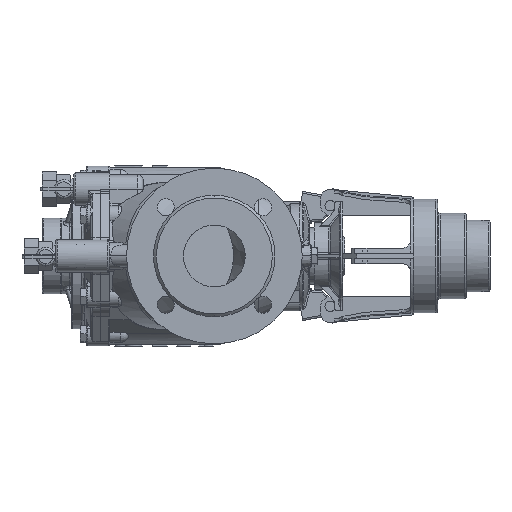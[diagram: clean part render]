
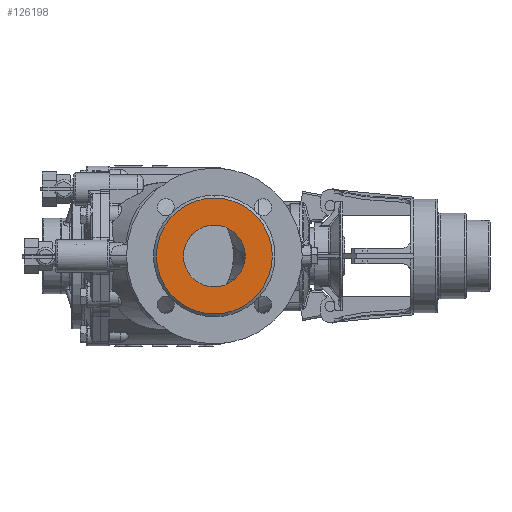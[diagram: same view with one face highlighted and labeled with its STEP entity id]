
A CAD part, left-side view. The second image highlights one B-rep face of the part: STEP entity #126198.
In plain terms, the highlighted planar face has unit normal (-1, 0, 0).
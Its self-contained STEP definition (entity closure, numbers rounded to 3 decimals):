
#16205 = EDGE_CURVE ( 'NONE', #16208, #16214, #74384, .T. ) ;
#16208 = VERTEX_POINT ( 'NONE', #74467 ) ;
#16214 = VERTEX_POINT ( 'NONE', #74466 ) ;
#16279 = EDGE_CURVE ( 'NONE', #16280, #16284, #74231, .T. ) ;
#16280 = VERTEX_POINT ( 'NONE', #75044 ) ;
#16284 = VERTEX_POINT ( 'NONE', #75245 ) ;
#74225 = DIRECTION ( 'NONE',  ( 0., 0., -1. ) ) ;
#74227 = DIRECTION ( 'NONE',  ( 1., 0., 0. ) ) ;
#74228 = CARTESIAN_POINT ( 'NONE',  ( -165., -120., 0. ) ) ;
#74230 = AXIS2_PLACEMENT_3D ( 'NONE', #74228, #74227, #74225 ) ;
#74231 = CIRCLE ( 'NONE', #74230, 32.5 ) ;
#74382 = CARTESIAN_POINT ( 'NONE',  ( -165., -120., 0. ) ) ;
#74384 = CIRCLE ( 'NONE', #74470, 61. ) ;
#74466 = CARTESIAN_POINT ( 'NONE',  ( -165., -120., 61. ) ) ;
#74467 = CARTESIAN_POINT ( 'NONE',  ( -165., -120., -61. ) ) ;
#74468 = DIRECTION ( 'NONE',  ( 0., 0., -1. ) ) ;
#74469 = DIRECTION ( 'NONE',  ( 1., 0., 0. ) ) ;
#74470 = AXIS2_PLACEMENT_3D ( 'NONE', #74382, #74469, #74468 ) ;
#75044 = CARTESIAN_POINT ( 'NONE',  ( -165., -120., 32.5 ) ) ;
#75245 = CARTESIAN_POINT ( 'NONE',  ( -165., -120., -32.5 ) ) ;
#115661 = DIRECTION ( 'NONE',  ( 0., 1., 0. ) ) ;
#115662 = DIRECTION ( 'NONE',  ( 1., 0., 0. ) ) ;
#115663 = CARTESIAN_POINT ( 'NONE',  ( -165., -35.813, -90. ) ) ;
#115664 = AXIS2_PLACEMENT_3D ( 'NONE', #115663, #115662, #115661 ) ;
#115672 = PLANE ( 'NONE',  #115664 ) ;
#115674 = FACE_OUTER_BOUND ( 'NONE', #126265, .T. ) ;
#115675 = FACE_BOUND ( 'NONE', #126300, .T. ) ;
#116001 = DIRECTION ( 'NONE',  ( 0., 0., -1. ) ) ;
#116002 = DIRECTION ( 'NONE',  ( 1., 0., 0. ) ) ;
#116003 = CARTESIAN_POINT ( 'NONE',  ( -165., -120., 0. ) ) ;
#116004 = AXIS2_PLACEMENT_3D ( 'NONE', #116003, #116002, #116001 ) ;
#116005 = CIRCLE ( 'NONE', #116004, 61. ) ;
#116333 = CARTESIAN_POINT ( 'NONE',  ( -165., -120., 0. ) ) ;
#116418 = DIRECTION ( 'NONE',  ( 0., 0., -1. ) ) ;
#116421 = DIRECTION ( 'NONE',  ( 1., 0., 0. ) ) ;
#116423 = AXIS2_PLACEMENT_3D ( 'NONE', #116333, #116421, #116418 ) ;
#116425 = CIRCLE ( 'NONE', #116423, 32.5 ) ;
#126198 = ADVANCED_FACE ( 'NONE', ( #115675, #115674 ), #115672, .F. ) ;
#126202 = ORIENTED_EDGE ( 'NONE', *, *, #126405, .T. ) ;
#126263 = ORIENTED_EDGE ( 'NONE', *, *, #16279, .T. ) ;
#126265 = EDGE_LOOP ( 'NONE', ( #126267, #126269 ) ) ;
#126267 = ORIENTED_EDGE ( 'NONE', *, *, #16205, .F. ) ;
#126269 = ORIENTED_EDGE ( 'NONE', *, *, #126272, .F. ) ;
#126272 = EDGE_CURVE ( 'NONE', #16214, #16208, #116005, .T. ) ;
#126300 = EDGE_LOOP ( 'NONE', ( #126202, #126263 ) ) ;
#126405 = EDGE_CURVE ( 'NONE', #16284, #16280, #116425, .T. ) ;
